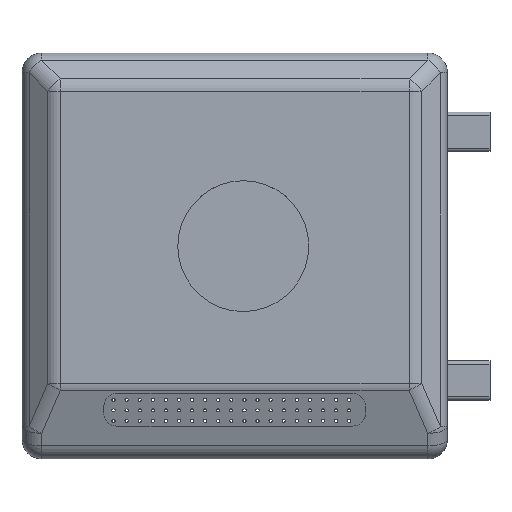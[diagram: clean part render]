
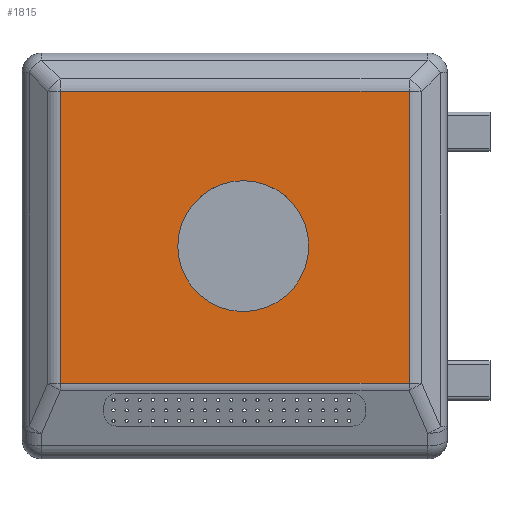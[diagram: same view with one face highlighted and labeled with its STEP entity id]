
A CAD part, top view. The second image highlights one B-rep face of the part: STEP entity #1815.
In plain terms, the highlighted planar face has unit normal (0, 0, 1).
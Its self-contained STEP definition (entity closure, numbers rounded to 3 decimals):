
#782=LINE('',#12371,#1140);
#783=LINE('',#12374,#1141);
#784=LINE('',#12376,#1142);
#785=LINE('',#12378,#1143);
#1140=VECTOR('',#7509,1.);
#1141=VECTOR('',#7510,1.);
#1142=VECTOR('',#7511,1.);
#1143=VECTOR('',#7512,1.);
#1815=ADVANCED_FACE('',(#2237,#2238),#2096,.T.);
#2096=PLANE('',#6605);
#2237=FACE_BOUND('',#2668,.T.);
#2238=FACE_BOUND('',#2669,.T.);
#2668=EDGE_LOOP('',(#3818));
#2669=EDGE_LOOP('',(#3819,#3820,#3821,#3822));
#3818=ORIENTED_EDGE('',*,*,#5778,.F.);
#3819=ORIENTED_EDGE('',*,*,#5779,.T.);
#3820=ORIENTED_EDGE('',*,*,#5780,.T.);
#3821=ORIENTED_EDGE('',*,*,#5781,.T.);
#3822=ORIENTED_EDGE('',*,*,#5782,.T.);
#5083=VERTEX_POINT('',#12370);
#5084=VERTEX_POINT('',#12372);
#5085=VERTEX_POINT('',#12373);
#5086=VERTEX_POINT('',#12375);
#5087=VERTEX_POINT('',#12377);
#5778=EDGE_CURVE('',#5083,#5083,#6260,.T.);
#5779=EDGE_CURVE('',#5084,#5085,#782,.T.);
#5780=EDGE_CURVE('',#5085,#5086,#783,.T.);
#5781=EDGE_CURVE('',#5086,#5087,#784,.T.);
#5782=EDGE_CURVE('',#5087,#5084,#785,.T.);
#6260=CIRCLE('',#6604,10.);
#6604=AXIS2_PLACEMENT_3D('',#12369,#7507,#7508);
#6605=AXIS2_PLACEMENT_3D('',#12379,#7513,#7514);
#7507=DIRECTION('',(0.,0.,1.));
#7508=DIRECTION('',(1.,0.,0.));
#7509=DIRECTION('',(-1.,0.,0.));
#7510=DIRECTION('',(0.,-1.,0.));
#7511=DIRECTION('',(1.,0.,0.));
#7512=DIRECTION('',(0.,1.,0.));
#7513=DIRECTION('',(0.,0.,1.));
#7514=DIRECTION('',(-1.,0.,0.));
#12369=CARTESIAN_POINT('',(1.306,1.488,19.5));
#12370=CARTESIAN_POINT('',(11.306,1.488,19.5));
#12371=CARTESIAN_POINT('',(0.,25.141,19.5));
#12372=CARTESIAN_POINT('',(26.641,25.141,19.5));
#12373=CARTESIAN_POINT('',(-26.641,25.141,19.5));
#12374=CARTESIAN_POINT('',(-26.641,0.,19.5));
#12375=CARTESIAN_POINT('',(-26.641,-19.481,19.5));
#12376=CARTESIAN_POINT('',(0.,-19.481,19.5));
#12377=CARTESIAN_POINT('',(26.641,-19.481,19.5));
#12378=CARTESIAN_POINT('',(26.641,0.,19.5));
#12379=CARTESIAN_POINT('',(0.,0.,19.5));
